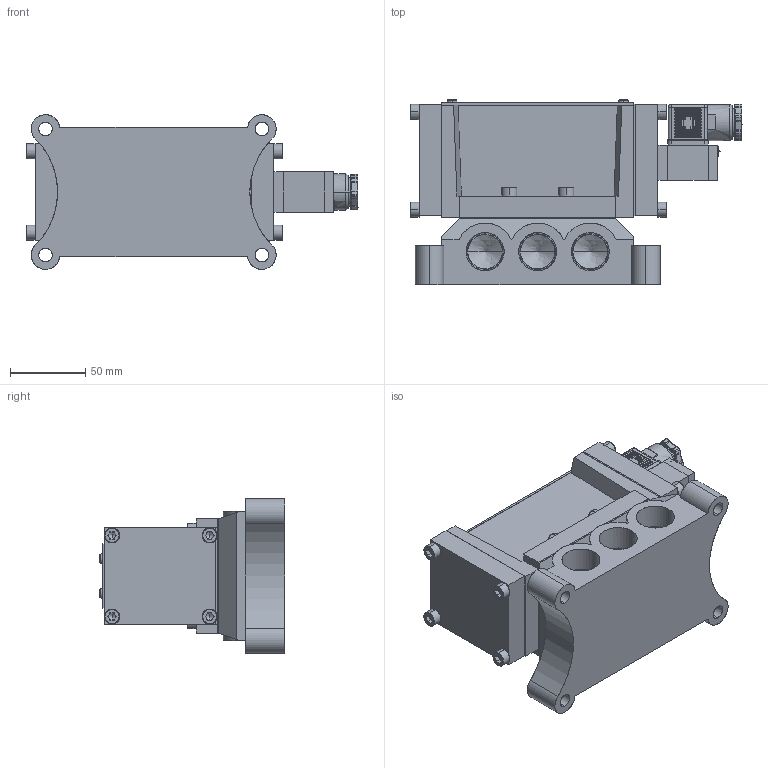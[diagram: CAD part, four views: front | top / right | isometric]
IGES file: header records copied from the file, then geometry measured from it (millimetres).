
Start section: SolidWorks IGES file using analytic representation for surfaces
Global section: file name: D:\Custom\3D繪製\PM\PM15\PMS2415#-06-#C#.IGS,1; native system: 5HSolidWorks 2014; preprocessor: SolidWorks 2014; author: Chieh_Lu; date: 151215.222402; units: millimetre
Bounding box: 221 x 123.55 x 103 mm (x, y, z)
Surface area: 199965.1 mm2 (no closed solid volume)
Topology: 0 solids, 0 shells, 1193 faces, 11525 edges, 11355 vertices
Faces by surface type: bspline 621, revolution 572
